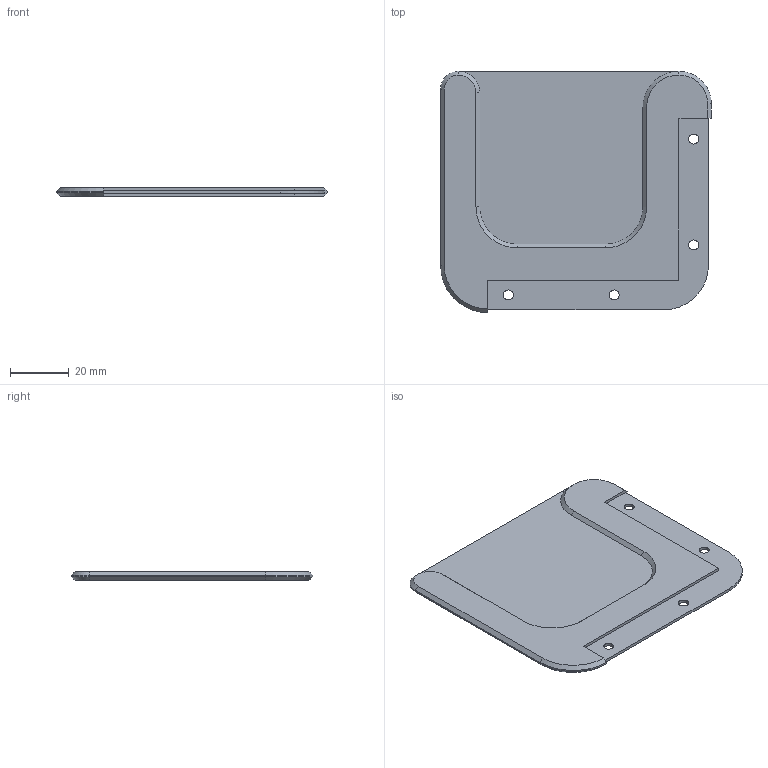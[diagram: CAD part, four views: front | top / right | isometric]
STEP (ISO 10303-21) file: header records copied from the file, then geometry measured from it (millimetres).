
FILE_DESCRIPTION(/* description */ ('STEP AP242','CAx-IF Rec.Pracs.---Representation and Presentation of Product Manufacturing Information (PMI)---4.0---2014-10-13','CAx-IF Rec.Pracs.---3D Tessellated Geometry---0.4---2014-09-14','2;1'),/* implementation_level */ '2;1');
FILE_NAME(/* name */ 'MH-AT1A090080E-X7654',/* time_stamp */ '2025-12-02T11:54:29+01:00',/* author */ ('License CC BY-ND 4.0'),/* organization */ ('CADENAS'),/* preprocessor_version */ 'ST-DEVELOPER v20',/* originating_system */ 'PARTsolutions',/* authorisation */ ' ');
FILE_SCHEMA (('AP242_MANAGED_MODEL_BASED_3D_ENGINEERING_MIM_LF { 1 0 10303 442 1 1 4 }'));
Length unit declared in the file: millimetre
Products named in the file (1): MH-AT1A090080E-X7654
Bounding box: 92 x 82 x 3 mm (x, y, z)
Volume: 10722.6 mm3; surface area: 15311.9 mm2
Topology: 1 solids, 1 shells, 49 faces, 127 edges, 80 vertices
Faces by surface type: plane 27, cone 14, cylinder 8
Full cylindrical faces by diameter (mm): 3.4 x4
Entity records: 1842 total; most frequent: DIRECTION 261, CARTESIAN_POINT 253, ORIENTED_EDGE 246, EDGE_CURVE 123, AXIS2_PLACEMENT_3D 88, LINE 85, VECTOR 85, VERTEX_POINT 80
